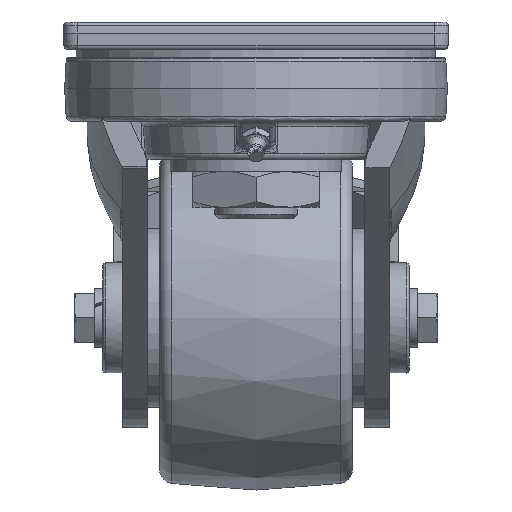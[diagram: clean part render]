
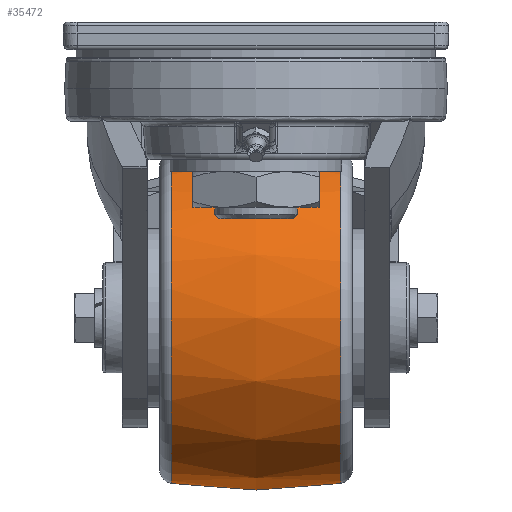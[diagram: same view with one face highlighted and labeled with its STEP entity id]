
A CAD part, left-side view. The second image highlights one B-rep face of the part: STEP entity #35472.
In plain terms, the highlighted free-form (B-spline) face has degree [2, 2] with [3, 9] control points.
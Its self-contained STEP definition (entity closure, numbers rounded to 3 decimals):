
#19=(
BOUNDED_SURFACE()
B_SPLINE_SURFACE(2,2,((#50629,#50630,#50631,#50632,#50633,#50634,#50635,
#50636,#50637),(#50638,#50639,#50640,#50641,#50642,#50643,#50644,#50645,
#50646),(#50647,#50648,#50649,#50650,#50651,#50652,#50653,#50654,#50655)),
 .UNSPECIFIED.,.F.,.T.,.F.)
B_SPLINE_SURFACE_WITH_KNOTS((3,3),(3,2,2,2,3),(-0.154,0.154),
(-3.142,-1.571,0.,1.571,3.142),
 .UNSPECIFIED.)
GEOMETRIC_REPRESENTATION_ITEM()
RATIONAL_B_SPLINE_SURFACE(((1.,0.707,1.,0.707,1.,
0.707,1.,0.707,1.),(0.988,0.699,
0.988,0.699,0.988,0.699,0.988,
0.699,0.988),(1.,0.707,1.,0.707,
1.,0.707,1.,0.707,1.)))
REPRESENTATION_ITEM('')
SURFACE()
);
#9608=FACE_OUTER_BOUND('',#11673,.T.);
#11673=EDGE_LOOP('',(#25269,#25270,#25271,#25272,#25273,#25274));
#13527=CIRCLE('',#37492,60.119);
#13531=CIRCLE('',#37496,60.119);
#13532=CIRCLE('',#37497,60.119);
#13533=CIRCLE('',#37498,60.119);
#13534=CIRCLE('',#37499,200.);
#14812=VERTEX_POINT('',#50620);
#14813=VERTEX_POINT('',#50621);
#14816=VERTEX_POINT('',#50656);
#14817=VERTEX_POINT('',#50657);
#18765=EDGE_CURVE('',#14812,#14813,#13527,.T.);
#18769=EDGE_CURVE('',#14813,#14812,#13531,.T.);
#18770=EDGE_CURVE('',#14816,#14817,#13532,.T.);
#18771=EDGE_CURVE('',#14817,#14816,#13533,.T.);
#18772=EDGE_CURVE('',#14817,#14813,#13534,.T.);
#25269=ORIENTED_EDGE('',*,*,#18770,.F.);
#25270=ORIENTED_EDGE('',*,*,#18771,.F.);
#25271=ORIENTED_EDGE('',*,*,#18772,.T.);
#25272=ORIENTED_EDGE('',*,*,#18765,.F.);
#25273=ORIENTED_EDGE('',*,*,#18769,.F.);
#25274=ORIENTED_EDGE('',*,*,#18772,.F.);
#35472=ADVANCED_FACE('',(#9608),#19,.F.);
#37492=AXIS2_PLACEMENT_3D('',#50622,#40544,#40545);
#37496=AXIS2_PLACEMENT_3D('',#50628,#40552,#40553);
#37497=AXIS2_PLACEMENT_3D('',#50658,#40554,#40555);
#37498=AXIS2_PLACEMENT_3D('',#50659,#40556,#40557);
#37499=AXIS2_PLACEMENT_3D('',#50660,#40558,#40559);
#40544=DIRECTION('center_axis',(0.,1.,0.));
#40545=DIRECTION('ref_axis',(0.,0.,
1.));
#40552=DIRECTION('center_axis',(0.,1.,0.));
#40553=DIRECTION('ref_axis',(0.,0.,
1.));
#40554=DIRECTION('center_axis',(0.,-1.,0.));
#40555=DIRECTION('ref_axis',(0.,0.,
1.));
#40556=DIRECTION('center_axis',(0.,-1.,0.));
#40557=DIRECTION('ref_axis',(0.,0.,
1.));
#40558=DIRECTION('center_axis',(-1.,0.,0.));
#40559=DIRECTION('ref_axis',(0.,0.,
1.));
#50620=CARTESIAN_POINT('',(77.5,30.769,-154.619));
#50621=CARTESIAN_POINT('',(77.5,30.769,-34.381));
#50622=CARTESIAN_POINT('Origin',(77.5,30.769,-94.5));
#50628=CARTESIAN_POINT('Origin',(77.5,30.769,-94.5));
#50629=CARTESIAN_POINT('Ctrl Pts',(77.5,30.769,-34.381));
#50630=CARTESIAN_POINT('Ctrl Pts',(17.381,30.769,-34.381));
#50631=CARTESIAN_POINT('Ctrl Pts',(17.381,30.769,-94.5));
#50632=CARTESIAN_POINT('Ctrl Pts',(17.381,30.769,-154.619));
#50633=CARTESIAN_POINT('Ctrl Pts',(77.5,30.769,-154.619));
#50634=CARTESIAN_POINT('Ctrl Pts',(137.619,30.769,-154.619));
#50635=CARTESIAN_POINT('Ctrl Pts',(137.619,30.769,-94.5));
#50636=CARTESIAN_POINT('Ctrl Pts',(137.619,30.769,-34.381));
#50637=CARTESIAN_POINT('Ctrl Pts',(77.5,30.769,-34.381));
#50638=CARTESIAN_POINT('Ctrl Pts',(77.5,0.,-29.59));
#50639=CARTESIAN_POINT('Ctrl Pts',(12.59,0.,
-29.59));
#50640=CARTESIAN_POINT('Ctrl Pts',(12.59,0.,
-94.5));
#50641=CARTESIAN_POINT('Ctrl Pts',(12.59,0.,
-159.41));
#50642=CARTESIAN_POINT('Ctrl Pts',(77.5,0.,
-159.41));
#50643=CARTESIAN_POINT('Ctrl Pts',(142.41,0.,
-159.41));
#50644=CARTESIAN_POINT('Ctrl Pts',(142.41,0.,
-94.5));
#50645=CARTESIAN_POINT('Ctrl Pts',(142.41,0.,
-29.59));
#50646=CARTESIAN_POINT('Ctrl Pts',(77.5,0.,-29.59));
#50647=CARTESIAN_POINT('Ctrl Pts',(77.5,-30.769,-34.381));
#50648=CARTESIAN_POINT('Ctrl Pts',(17.381,-30.769,-34.381));
#50649=CARTESIAN_POINT('Ctrl Pts',(17.381,-30.769,-94.5));
#50650=CARTESIAN_POINT('Ctrl Pts',(17.381,-30.769,-154.619));
#50651=CARTESIAN_POINT('Ctrl Pts',(77.5,-30.769,-154.619));
#50652=CARTESIAN_POINT('Ctrl Pts',(137.619,-30.769,-154.619));
#50653=CARTESIAN_POINT('Ctrl Pts',(137.619,-30.769,-94.5));
#50654=CARTESIAN_POINT('Ctrl Pts',(137.619,-30.769,-34.381));
#50655=CARTESIAN_POINT('Ctrl Pts',(77.5,-30.769,-34.381));
#50656=CARTESIAN_POINT('',(77.5,-30.769,-154.619));
#50657=CARTESIAN_POINT('',(77.5,-30.769,-34.381));
#50658=CARTESIAN_POINT('Origin',(77.5,-30.769,-94.5));
#50659=CARTESIAN_POINT('Origin',(77.5,-30.769,-94.5));
#50660=CARTESIAN_POINT('Origin',(77.5,0.,
-232.));
